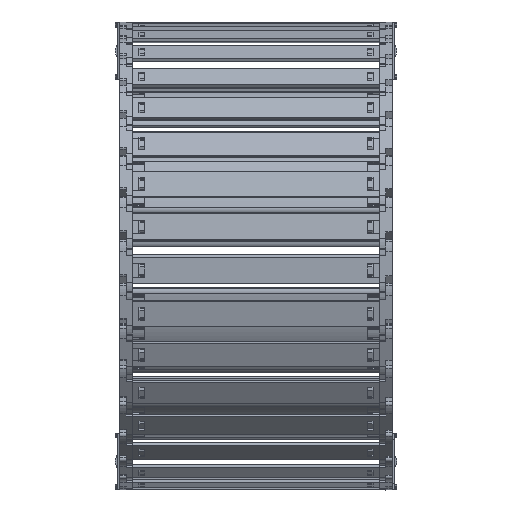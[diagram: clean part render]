
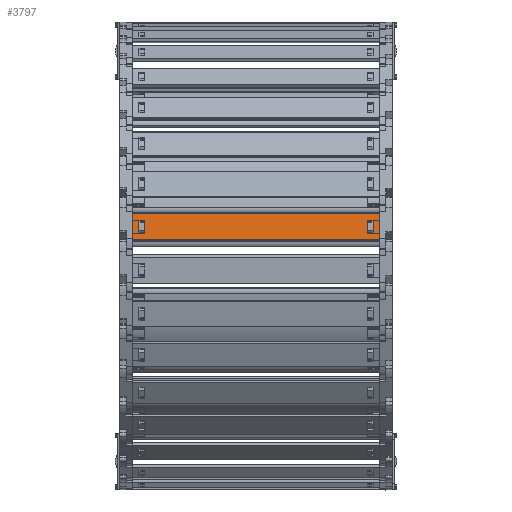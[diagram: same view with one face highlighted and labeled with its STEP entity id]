
A CAD part, top view. The second image highlights one B-rep face of the part: STEP entity #3797.
In plain terms, the highlighted planar face has unit normal (0, 0.125, 0.992) as drawn and (0, 1, 0) by its records, which use the part's own axes.
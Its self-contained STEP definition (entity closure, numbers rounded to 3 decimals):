
#2923=DIRECTION('',(0.,0.,1.));
#2924=VECTOR('',#2923,15.8);
#2925=CARTESIAN_POINT('',(135.74,1.5,-7.9));
#2926=LINE('',#2925,#2924);
#2930=DIRECTION('',(-1.,0.,0.));
#2931=VECTOR('',#2930,150.5);
#2932=CARTESIAN_POINT('',(135.74,1.5,7.9));
#2933=LINE('',#2932,#2931);
#2937=DIRECTION('',(0.,0.,-1.));
#2938=VECTOR('',#2937,15.8);
#2939=CARTESIAN_POINT('',(-14.76,1.5,7.9));
#2940=LINE('',#2939,#2938);
#2944=DIRECTION('',(1.,0.,0.));
#2945=VECTOR('',#2944,3.648);
#2946=CARTESIAN_POINT('',(128.122,1.5,4.075));
#2947=LINE('',#2946,#2945);
#2951=DIRECTION('',(0.,0.,-1.));
#2952=VECTOR('',#2951,8.15);
#2953=CARTESIAN_POINT('',(131.77,1.5,4.075));
#2954=LINE('',#2953,#2952);
#2958=DIRECTION('',(-1.,0.,0.));
#2959=VECTOR('',#2958,3.648);
#2960=CARTESIAN_POINT('',(131.77,1.5,-4.075));
#2961=LINE('',#2960,#2959);
#2965=DIRECTION('',(0.,0.,-1.));
#2966=VECTOR('',#2965,8.15);
#2967=CARTESIAN_POINT('',(-7.142,1.5,4.075));
#2968=LINE('',#2967,#2966);
#2972=DIRECTION('',(-1.,0.,0.));
#2973=VECTOR('',#2972,3.648);
#2974=CARTESIAN_POINT('',(-7.142,1.5,-4.075));
#2975=LINE('',#2974,#2973);
#2979=DIRECTION('',(0.,0.,1.));
#2980=VECTOR('',#2979,8.15);
#2981=CARTESIAN_POINT('',(-10.79,1.5,-4.075));
#2982=LINE('',#2981,#2980);
#2986=DIRECTION('',(1.,0.,0.));
#2987=VECTOR('',#2986,3.648);
#2988=CARTESIAN_POINT('',(-10.79,1.5,4.075));
#2989=LINE('',#2988,#2987);
#3000=DIRECTION('',(-1.,0.,0.));
#3001=VECTOR('',#3000,150.5);
#3002=CARTESIAN_POINT('',(135.74,1.5,-7.9));
#3003=LINE('',#3002,#3001);
#3208=DIRECTION('',(0.,0.,-1.));
#3209=VECTOR('',#3208,8.15);
#3210=CARTESIAN_POINT('',(128.122,1.5,4.075));
#3211=LINE('',#3210,#3209);
#3507=CARTESIAN_POINT('',(131.77,1.5,4.075));
#3508=VERTEX_POINT('',#3507);
#3509=CARTESIAN_POINT('',(128.122,1.5,4.075));
#3510=VERTEX_POINT('',#3509);
#3551=CARTESIAN_POINT('',(128.122,1.5,-4.075));
#3552=VERTEX_POINT('',#3551);
#3553=CARTESIAN_POINT('',(131.77,1.5,-4.075));
#3554=VERTEX_POINT('',#3553);
#3555=CARTESIAN_POINT('',(135.74,1.5,7.9));
#3557=VERTEX_POINT('',#3555);
#3559=CARTESIAN_POINT('',(135.74,1.5,-7.9));
#3560=VERTEX_POINT('',#3559);
#3583=CARTESIAN_POINT('',(-7.142,1.5,4.075));
#3584=CARTESIAN_POINT('',(-7.142,1.5,-4.075));
#3585=VERTEX_POINT('',#3583);
#3586=VERTEX_POINT('',#3584);
#3587=CARTESIAN_POINT('',(-10.79,1.5,-4.075));
#3588=VERTEX_POINT('',#3587);
#3589=CARTESIAN_POINT('',(-10.79,1.5,4.075));
#3590=VERTEX_POINT('',#3589);
#3591=CARTESIAN_POINT('',(-14.76,1.5,7.9));
#3592=VERTEX_POINT('',#3591);
#3595=CARTESIAN_POINT('',(-14.76,1.5,-7.9));
#3596=VERTEX_POINT('',#3595);
#3766=CARTESIAN_POINT('',(167.48,1.5,10.061));
#3767=DIRECTION('',(0.,-1.,0.));
#3768=DIRECTION('',(0.,0.,-1.));
#3769=AXIS2_PLACEMENT_3D('',#3766,#3767,#3768);
#3770=PLANE('',#3769);
#3771=ORIENTED_EDGE('',*,*,#3669,.T.);
#3772=ORIENTED_EDGE('',*,*,#3707,.T.);
#3773=ORIENTED_EDGE('',*,*,#3732,.T.);
#3775=ORIENTED_EDGE('',*,*,#3774,.F.);
#3776=EDGE_LOOP('',(#3771,#3772,#3773,#3775));
#3777=FACE_OUTER_BOUND('',#3776,.F.);
#3779=ORIENTED_EDGE('',*,*,#3778,.F.);
#3780=ORIENTED_EDGE('',*,*,#3608,.T.);
#3782=ORIENTED_EDGE('',*,*,#3781,.T.);
#3784=ORIENTED_EDGE('',*,*,#3783,.T.);
#3785=EDGE_LOOP('',(#3779,#3780,#3782,#3784));
#3786=FACE_BOUND('',#3785,.F.);
#3788=ORIENTED_EDGE('',*,*,#3787,.T.);
#3790=ORIENTED_EDGE('',*,*,#3789,.T.);
#3792=ORIENTED_EDGE('',*,*,#3791,.T.);
#3794=ORIENTED_EDGE('',*,*,#3793,.T.);
#3795=EDGE_LOOP('',(#3788,#3790,#3792,#3794));
#3796=FACE_BOUND('',#3795,.F.);
#3797=ADVANCED_FACE('',(#3777,#3786,#3796),#3770,.F.);
#3608=EDGE_CURVE('',#3510,#3508,#2947,.T.);
#3669=EDGE_CURVE('',#3560,#3557,#2926,.T.);
#3707=EDGE_CURVE('',#3557,#3592,#2933,.T.);
#3732=EDGE_CURVE('',#3592,#3596,#2940,.T.);
#3774=EDGE_CURVE('',#3560,#3596,#3003,.T.);
#3778=EDGE_CURVE('',#3510,#3552,#3211,.T.);
#3781=EDGE_CURVE('',#3508,#3554,#2954,.T.);
#3783=EDGE_CURVE('',#3554,#3552,#2961,.T.);
#3787=EDGE_CURVE('',#3585,#3586,#2968,.T.);
#3789=EDGE_CURVE('',#3586,#3588,#2975,.T.);
#3791=EDGE_CURVE('',#3588,#3590,#2982,.T.);
#3793=EDGE_CURVE('',#3590,#3585,#2989,.T.);
